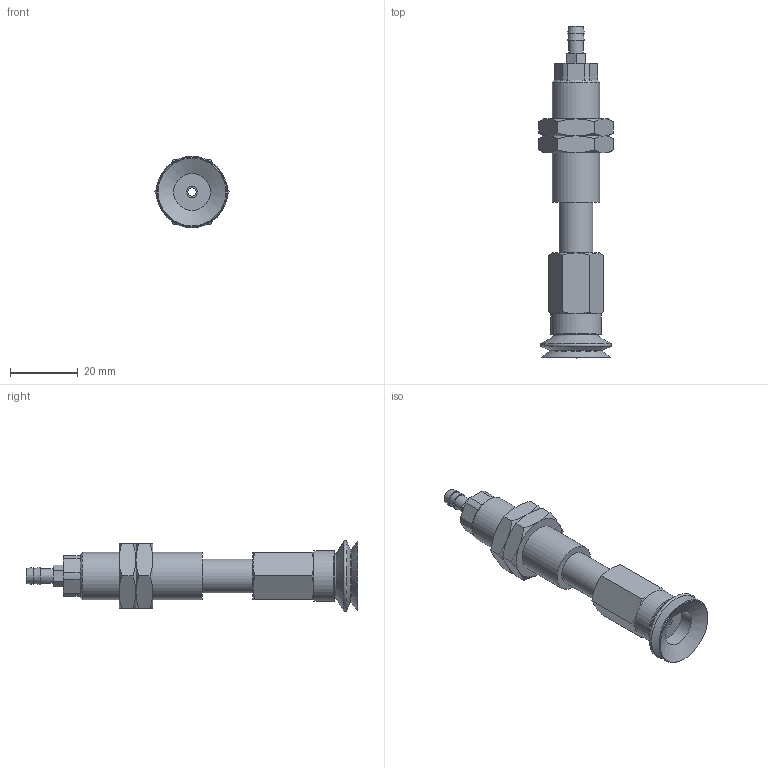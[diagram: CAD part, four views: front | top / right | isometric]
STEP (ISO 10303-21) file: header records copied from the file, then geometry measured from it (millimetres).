
FILE_DESCRIPTION(('STEP AP203'),'1');
FILE_NAME('-T.stp','2025-08-27T07:41:06',(' '),(' '),'Spatial InterOp 3D',' ',' ');
FILE_SCHEMA(('CONFIG_CONTROL_DESIGN'));
Length unit declared in the file: millimetre
Products named in the file (8): BNABPJTS-20-15-※-T; ADAPTER; NAPBTS-20-15--M; Adapter-20-NAPJ; NUT-NAPJ-20-15-s; NAPJTS-20-15-FBODY; BPJG-20-※; T
Assembly tree (8 placements, depth 2):
  BNABPJTS-20-15-※-T
    ADAPTER
    NAPBTS-20-15--M
    Adapter-20-NAPJ
    NUT-NAPJ-20-15-s  x2
    NAPJTS-20-15-FBODY
    BPJG-20-※
    T
Bounding box: 21.94 x 98 x 21 mm (x, y, z)
Volume: 13628.3 mm3; surface area: 11139.3 mm2
Topology: 8 solids, 8 shells, 145 faces, 307 edges, 188 vertices
Faces by surface type: plane 62, cone 52, cylinder 24, torus 7
Full cylindrical faces by diameter (mm): 2.5 x1, 3 x3, 4.134 x2, 4.3 x1, 4.6 x1, 5 x2, 10 x2, 10.8 x1, 11 x1, 13.188 x2, 14 x1, 15 x1
Entity records: 3670 total; most frequent: CARTESIAN_POINT 833, DIRECTION 520, ORIENTED_EDGE 426, AXIS2_PLACEMENT_3D 224, EDGE_CURVE 213, EDGE_LOOP 184, VERTEX_POINT 153, FACE_OUTER_BOUND 146
